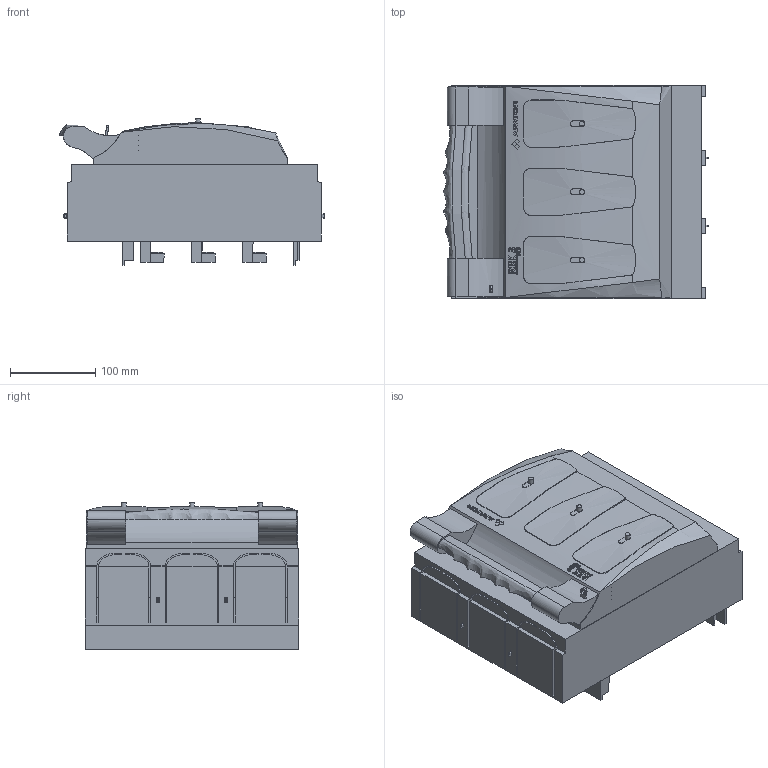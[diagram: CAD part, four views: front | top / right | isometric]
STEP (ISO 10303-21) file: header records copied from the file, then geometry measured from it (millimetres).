
FILE_DESCRIPTION(/* description */ (''),/* implementation_level */ '2;1');
FILE_NAME(/* name */ 'RBK 3 pro-SD-M - 63-028802-003.stp',/* time_stamp */ '2019-03-14T15:23:45+01:00',/* author */ (''),/* organization */ (''),/* preprocessor_version */ 'ST-DEVELOPER v16',/* originating_system */ 'SIEMENS PLM Software NX 10.0',/* authorisation */ '');
FILE_SCHEMA (('AUTOMOTIVE_DESIGN { 1 0 10303 214 3 1 1 1 }'));
Products named in the file (1): 710_1B883FDDchbz
Bounding box: 311.67 x 250 x 172.2 mm (x, y, z)
Volume: 7577791.6 mm3; surface area: 455940.8 mm2
Topology: 1 solids, 5 shells, 1261 faces, 3579 edges, 2356 vertices
Faces by surface type: extrusion 654, plane 364, cylinder 142, bspline 47, sphere 20, cone 18, torus 16
Full cylindrical faces by diameter (mm): 11.105 x4, 13 x3
Entity records: 51537 total; most frequent: CARTESIAN_POINT 18146, ORIENTED_EDGE 7102, DIRECTION 6055, EDGE_CURVE 3551, VECTOR 3121, LINE 2467, VERTEX_POINT 2359, AXIS2_PLACEMENT_3D 1467
